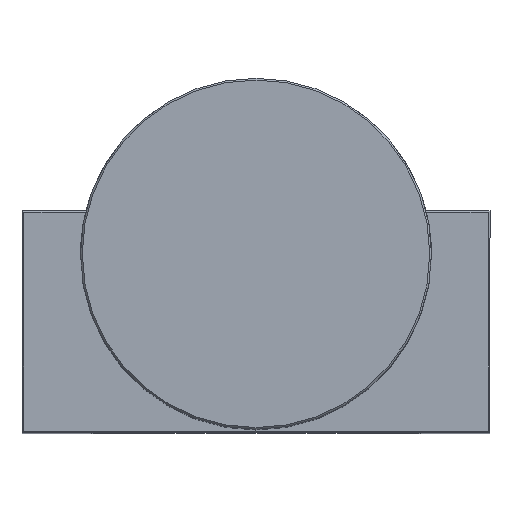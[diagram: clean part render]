
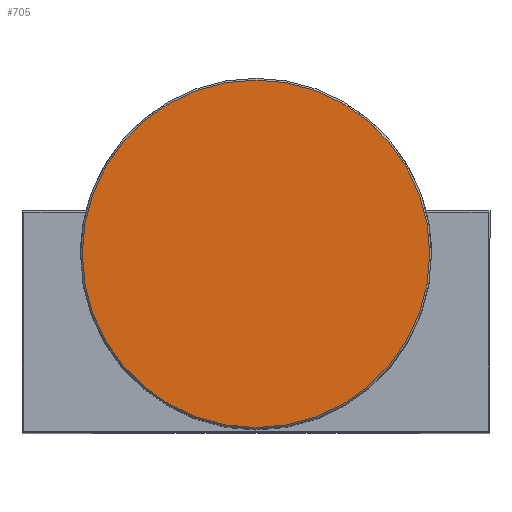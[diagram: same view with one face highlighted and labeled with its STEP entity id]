
A CAD part, top view. The second image highlights one B-rep face of the part: STEP entity #705.
In plain terms, the highlighted planar face has unit normal (0, 0, 1).
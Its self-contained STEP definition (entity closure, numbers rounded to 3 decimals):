
#662 = EDGE_CURVE ( 'NONE', #779, #775, #1222, .T. ) ;
#687 = EDGE_LOOP ( 'NONE', ( #706, #716 ) ) ;
#705 = ADVANCED_FACE ( 'NONE', ( #1316 ), #1286, .T. ) ;
#706 = ORIENTED_EDGE ( 'NONE', *, *, #773, .F. ) ;
#716 = ORIENTED_EDGE ( 'NONE', *, *, #662, .F. ) ;
#773 = EDGE_CURVE ( 'NONE', #775, #779, #1462, .T. ) ;
#775 = VERTEX_POINT ( 'NONE', #1478 ) ;
#779 = VERTEX_POINT ( 'NONE', #1481 ) ;
#1218 = DIRECTION ( 'NONE',  ( -1., 0., 0. ) ) ;
#1219 = DIRECTION ( 'NONE',  ( 0., 0., -1. ) ) ;
#1220 = CARTESIAN_POINT ( 'NONE',  ( 0., 0., 74. ) ) ;
#1221 = AXIS2_PLACEMENT_3D ( 'NONE', #1220, #1219, #1218 ) ;
#1222 = CIRCLE ( 'NONE', #1221, 29.7 ) ;
#1285 = CARTESIAN_POINT ( 'NONE',  ( 0., 0., 74. ) ) ;
#1286 = PLANE ( 'NONE',  #1379 ) ;
#1316 = FACE_OUTER_BOUND ( 'NONE', #687, .T. ) ;
#1377 = DIRECTION ( 'NONE',  ( 1., 0., 0. ) ) ;
#1378 = DIRECTION ( 'NONE',  ( 0., 0., 1. ) ) ;
#1379 = AXIS2_PLACEMENT_3D ( 'NONE', #1285, #1378, #1377 ) ;
#1459 = DIRECTION ( 'NONE',  ( 0., 0., -1. ) ) ;
#1461 = AXIS2_PLACEMENT_3D ( 'NONE', #1480, #1459, #1479 ) ;
#1462 = CIRCLE ( 'NONE', #1461, 29.7 ) ;
#1478 = CARTESIAN_POINT ( 'NONE',  ( -29.7, 0., 74. ) ) ;
#1479 = DIRECTION ( 'NONE',  ( -1., 0., 0. ) ) ;
#1480 = CARTESIAN_POINT ( 'NONE',  ( 0., 0., 74. ) ) ;
#1481 = CARTESIAN_POINT ( 'NONE',  ( 29.7, 0., 74. ) ) ;
